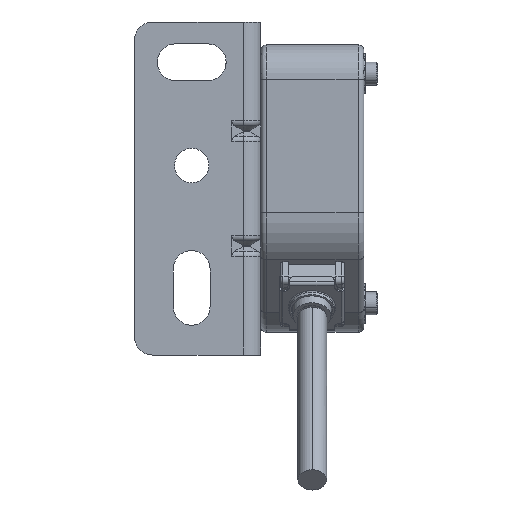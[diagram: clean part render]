
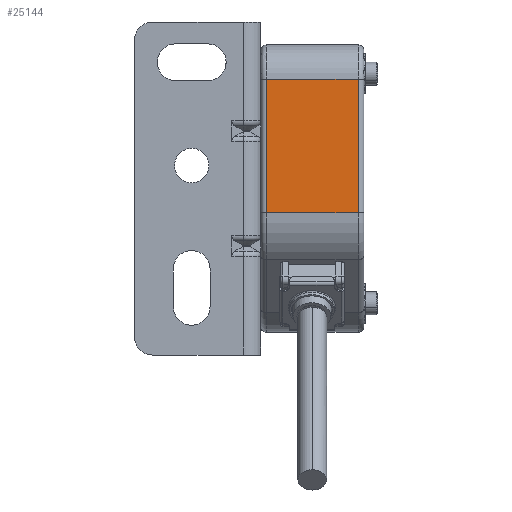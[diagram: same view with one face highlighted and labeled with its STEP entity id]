
A CAD part, front view. The second image highlights one B-rep face of the part: STEP entity #25144.
In plain terms, the highlighted planar face has unit normal (0, -1, 0).
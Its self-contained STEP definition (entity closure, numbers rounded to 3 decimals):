
#352 = ORIENTED_EDGE ( 'NONE', *, *, #51535, .T. ) ;
#573 = LINE ( 'NONE', #54776, #46297 ) ;
#1718 = CARTESIAN_POINT ( 'NONE',  ( -42.877, -22.44, 77.751 ) ) ;
#2117 = VECTOR ( 'NONE', #56579, 1000. ) ;
#7682 = EDGE_CURVE ( 'NONE', #59993, #41949, #34599, .T. ) ;
#10670 = DIRECTION ( 'NONE',  ( 0., 1., 0. ) ) ;
#13269 = DIRECTION ( 'NONE',  ( 1., 0., 0. ) ) ;
#15804 = DIRECTION ( 'NONE',  ( 0., 0., -1. ) ) ;
#16676 = DIRECTION ( 'NONE',  ( 1., 0., 0. ) ) ;
#21185 = ORIENTED_EDGE ( 'NONE', *, *, #7682, .F. ) ;
#21782 = ORIENTED_EDGE ( 'NONE', *, *, #30463, .T. ) ;
#22434 = CARTESIAN_POINT ( 'NONE',  ( -42.877, -22.44, 100.988 ) ) ;
#22602 = CARTESIAN_POINT ( 'NONE',  ( -26.877, -22.44, 100.988 ) ) ;
#23844 = PLANE ( 'NONE',  #34941 ) ;
#25144 = ADVANCED_FACE ( 'NONE', ( #50557 ), #23844, .F. ) ;
#27074 = LINE ( 'NONE', #47648, #2117 ) ;
#27799 = VERTEX_POINT ( 'NONE', #49878 ) ;
#29406 = LINE ( 'NONE', #41261, #43502 ) ;
#30463 = EDGE_CURVE ( 'NONE', #32469, #27799, #29406, .T. ) ;
#32469 = VERTEX_POINT ( 'NONE', #1718 ) ;
#33669 = CARTESIAN_POINT ( 'NONE',  ( -43.877, -22.44, 77.751 ) ) ;
#34599 = LINE ( 'NONE', #57311, #45749 ) ;
#34941 = AXIS2_PLACEMENT_3D ( 'NONE', #33669, #10670, #15804 ) ;
#39400 = EDGE_CURVE ( 'NONE', #27799, #41949, #27074, .T. ) ;
#41261 = CARTESIAN_POINT ( 'NONE',  ( -43.877, -22.44, 77.751 ) ) ;
#41949 = VERTEX_POINT ( 'NONE', #22602 ) ;
#43502 = VECTOR ( 'NONE', #13269, 1000. ) ;
#45749 = VECTOR ( 'NONE', #16676, 1000. ) ;
#46297 = VECTOR ( 'NONE', #50818, 1000. ) ;
#47648 = CARTESIAN_POINT ( 'NONE',  ( -26.877, -22.44, 77.751 ) ) ;
#49308 = EDGE_LOOP ( 'NONE', ( #21185, #352, #21782, #51925 ) ) ;
#49878 = CARTESIAN_POINT ( 'NONE',  ( -26.877, -22.44, 77.751 ) ) ;
#50557 = FACE_OUTER_BOUND ( 'NONE', #49308, .T. ) ;
#50818 = DIRECTION ( 'NONE',  ( 0., 0., -1. ) ) ;
#51535 = EDGE_CURVE ( 'NONE', #59993, #32469, #573, .T. ) ;
#51925 = ORIENTED_EDGE ( 'NONE', *, *, #39400, .T. ) ;
#54776 = CARTESIAN_POINT ( 'NONE',  ( -42.877, -22.44, 77.751 ) ) ;
#56579 = DIRECTION ( 'NONE',  ( 0., 0., 1. ) ) ;
#57311 = CARTESIAN_POINT ( 'NONE',  ( -43.877, -22.44, 100.988 ) ) ;
#59993 = VERTEX_POINT ( 'NONE', #22434 ) ;
